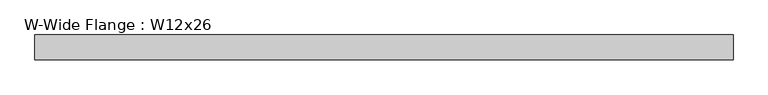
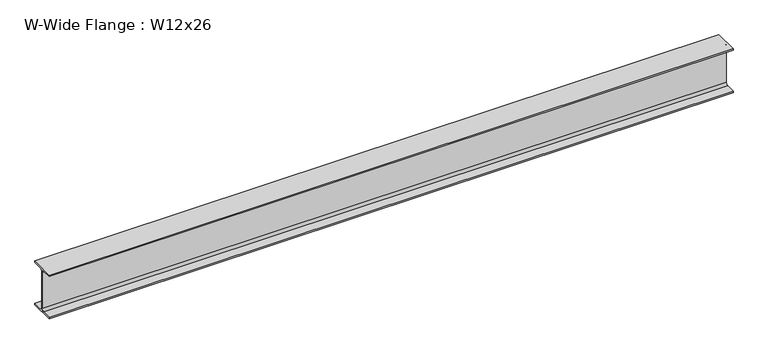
"""IFC4 building model written with IfcOpenShell, lengths in millimetres: beam geometry, W-Wide Flange : W12x26."""

from ifc_helpers import new_model, si_unit, point, frame, frame_2d, origin, place, context, project, spatial, polyline, circle_curve, trimmed, segment, composite_curve, outline, extrude, source, transform, mapped, element, save


def w_wide_flange_w12x26_3f7f05cf(model_context):
    return source(origin(), model_context, "Body", "SweptSolid", [
        extrude(outline(composite_curve([segment(polyline([(82.423, -145.288), (82.423, -154.94), (-82.423, -154.94), (-82.423, -145.288), (-20.2565, -145.288)]), True, "CONTINUOUS"), segment(trimmed(circle_curve(frame_2d((-20.2565, -127.9525)), 17.3355), [point((-20.2565, -145.288))], [point((-2.921, -127.9525))], True, "CARTESIAN"), True, "CONTINUOUS"), segment(polyline([(-2.921, -127.9525), (-2.921, 127.9525)]), True, "CONTINUOUS"), segment(trimmed(circle_curve(frame_2d((-20.2565, 127.9525)), 17.3355), [point((-2.921, 127.9525))], [point((-20.2565, 145.288))], True, "CARTESIAN"), True, "CONTINUOUS"), segment(polyline([(-20.2565, 145.288), (-82.423, 145.288), (-82.423, 154.94), (82.423, 154.94), (82.423, 145.288), (20.2565, 145.288)]), True, "CONTINUOUS"), segment(trimmed(circle_curve(frame_2d((20.2565, 127.9525)), 17.3355), [point((20.2565, 145.288))], [point((2.921, 127.9525))], True, "CARTESIAN"), True, "CONTINUOUS"), segment(polyline([(2.921, 127.9525), (2.921, -127.9525)]), True, "CONTINUOUS"), segment(trimmed(circle_curve(frame_2d((20.2565, -127.9525)), 17.3355), [point((2.921, -127.9525))], [point((20.2565, -145.288))], True, "CARTESIAN"), True, "CONTINUOUS"), segment(polyline([(20.2565, -145.288), (82.423, -145.288)]), True, "CONTINUOUS")], self_intersect=False)), frame((-2326.513, 0.0, 0.0), z_axis=(1.0, 0.0, 0.0), x_axis=(0.0, 1.0, 0.0)), (0.0, 0.0, 1.0), 4593.463),
    ])


if __name__ == "__main__":
    model = new_model("IFC4")
    model_context = context("Model", 3, world=origin())
    ifc_project = project(units=[si_unit("LENGTHUNIT", "METRE", prefix="MILLI")], contexts=[model_context])
    site = spatial("IfcSite", under=ifc_project)
    building = spatial("IfcBuilding", under=site)
    placement = place(None, origin())
    w_wide_flange_w12x26_shape = w_wide_flange_w12x26_3f7f05cf(model_context)
    element("IfcBeam", 1, ObjectType="W-Wide Flange : W12x26", at=placement, inside=building, context=model_context, shape_type="MappedRepresentation", body=[
        mapped(w_wide_flange_w12x26_shape, transform((0.0, 0.0, 0.0), x_axis=(1.0, 0.0, 0.0), y_axis=(0.0, 1.0, 0.0), z_axis=(0.0, 0.0, 1.0))),
    ])
    save(model, "model.ifc")
